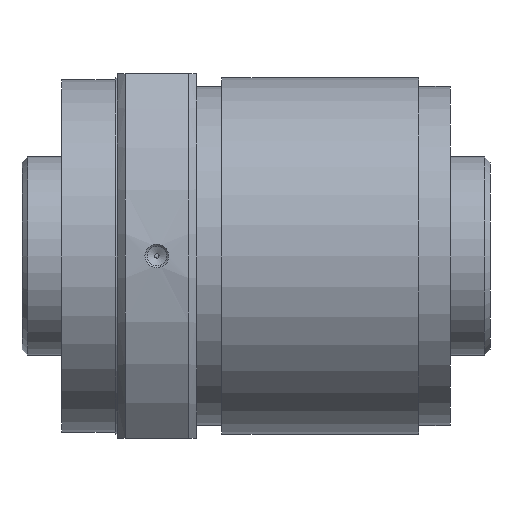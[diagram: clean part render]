
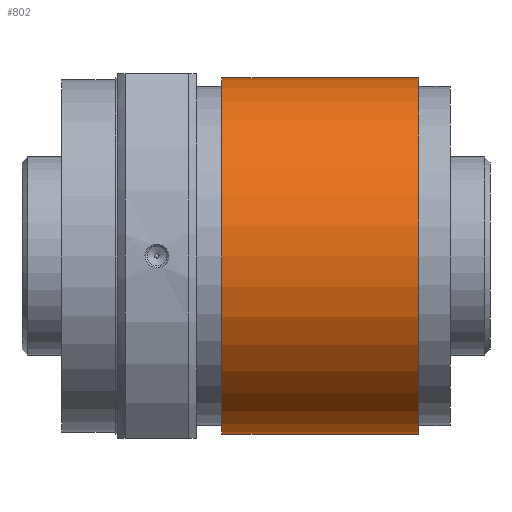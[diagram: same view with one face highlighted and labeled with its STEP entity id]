
A CAD part, front view. The second image highlights one B-rep face of the part: STEP entity #802.
In plain terms, the highlighted cylindrical face has radius 45 mm (diameter 90 mm), a full revolution.
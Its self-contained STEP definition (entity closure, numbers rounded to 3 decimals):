
#70=CYLINDRICAL_SURFACE('',#915,45.);
#148=ORIENTED_EDGE('',*,*,#305,.T.);
#149=ORIENTED_EDGE('',*,*,#304,.F.);
#304=EDGE_CURVE('',#386,#386,#458,.T.);
#305=EDGE_CURVE('',#387,#387,#459,.T.);
#386=VERTEX_POINT('',#1395);
#387=VERTEX_POINT('',#1398);
#458=CIRCLE('',#914,45.);
#459=CIRCLE('',#916,45.);
#534=EDGE_LOOP('',(#148));
#535=EDGE_LOOP('',(#149));
#664=FACE_BOUND('',#534,.T.);
#665=FACE_BOUND('',#535,.T.);
#802=ADVANCED_FACE('',(#664,#665),#70,.T.);
#914=AXIS2_PLACEMENT_3D('',#1394,#1089,#1090);
#915=AXIS2_PLACEMENT_3D('',#1396,#1091,#1092);
#916=AXIS2_PLACEMENT_3D('',#1397,#1093,#1094);
#1089=DIRECTION('',(1.,0.,0.));
#1090=DIRECTION('',(0.,0.,-1.));
#1091=DIRECTION('',(1.,0.,0.));
#1092=DIRECTION('',(0.,0.,-1.));
#1093=DIRECTION('',(1.,0.,0.));
#1094=DIRECTION('',(0.,0.,-1.));
#1394=CARTESIAN_POINT('',(90.,0.,0.));
#1395=CARTESIAN_POINT('',(90.,0.,-45.));
#1396=CARTESIAN_POINT('',(98.,0.,0.));
#1397=CARTESIAN_POINT('',(40.4,0.,0.));
#1398=CARTESIAN_POINT('',(40.4,0.,-45.));
